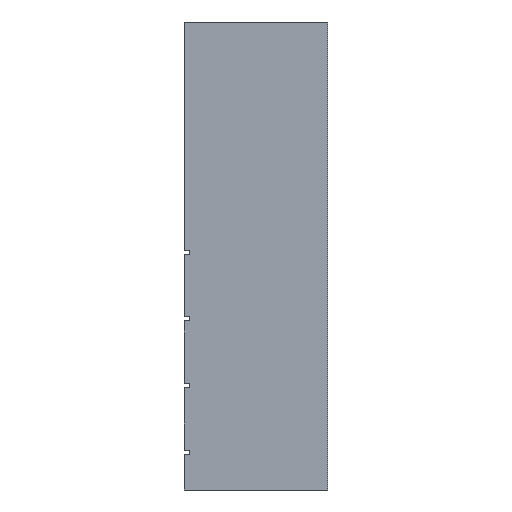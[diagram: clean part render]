
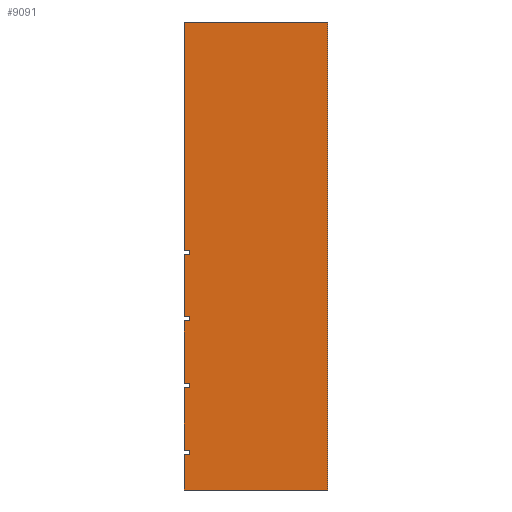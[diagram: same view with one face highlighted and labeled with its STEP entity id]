
A CAD part, left-side view. The second image highlights one B-rep face of the part: STEP entity #9091.
In plain terms, the highlighted planar face has unit normal (-1, 0, 0).
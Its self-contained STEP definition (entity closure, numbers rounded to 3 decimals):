
#375=PLANE('',#9787);
#715=FACE_OUTER_BOUND('',#1115,.T.);
#1115=EDGE_LOOP('',(#7291,#7292,#7293,#7294,#7295,#7296,#7297,#7298,#7299,
#7300,#7301,#7302,#7303,#7304,#7305,#7306,#7307,#7308,#7309,#7310));
#1546=LINE('',#13098,#2484);
#1548=LINE('',#13104,#2486);
#1551=LINE('',#13109,#2489);
#1619=LINE('',#13305,#2557);
#1621=LINE('',#13311,#2559);
#1624=LINE('',#13316,#2562);
#1854=LINE('',#13968,#2792);
#1856=LINE('',#13974,#2794);
#1859=LINE('',#13979,#2797);
#1927=LINE('',#14175,#2865);
#1929=LINE('',#14181,#2867);
#1932=LINE('',#14186,#2870);
#2025=LINE('',#14527,#2963);
#2026=LINE('',#14528,#2964);
#2027=LINE('',#14530,#2965);
#2028=LINE('',#14532,#2966);
#2029=LINE('',#14534,#2967);
#2030=LINE('',#14536,#2968);
#2031=LINE('',#14537,#2969);
#2032=LINE('',#14538,#2970);
#2484=VECTOR('',#10448,10.);
#2486=VECTOR('',#10452,10.);
#2489=VECTOR('',#10457,10.);
#2557=VECTOR('',#10627,10.);
#2559=VECTOR('',#10631,10.);
#2562=VECTOR('',#10636,10.);
#2792=VECTOR('',#11200,10.);
#2794=VECTOR('',#11204,10.);
#2797=VECTOR('',#11209,10.);
#2865=VECTOR('',#11379,10.);
#2867=VECTOR('',#11383,10.);
#2870=VECTOR('',#11388,10.);
#2963=VECTOR('',#11783,10.);
#2964=VECTOR('',#11784,10.);
#2965=VECTOR('',#11785,10.);
#2966=VECTOR('',#11786,10.);
#2967=VECTOR('',#11787,10.);
#2968=VECTOR('',#11788,10.);
#2969=VECTOR('',#11789,10.);
#2970=VECTOR('',#11790,10.);
#3866=VERTEX_POINT('',#13092);
#3868=VERTEX_POINT('',#13096);
#3869=VERTEX_POINT('',#13100);
#3871=VERTEX_POINT('',#13103);
#3947=VERTEX_POINT('',#13299);
#3949=VERTEX_POINT('',#13303);
#3950=VERTEX_POINT('',#13307);
#3952=VERTEX_POINT('',#13310);
#4206=VERTEX_POINT('',#13962);
#4208=VERTEX_POINT('',#13966);
#4209=VERTEX_POINT('',#13970);
#4211=VERTEX_POINT('',#13973);
#4287=VERTEX_POINT('',#14169);
#4289=VERTEX_POINT('',#14173);
#4290=VERTEX_POINT('',#14177);
#4292=VERTEX_POINT('',#14180);
#4391=VERTEX_POINT('',#14529);
#4392=VERTEX_POINT('',#14531);
#4393=VERTEX_POINT('',#14533);
#4394=VERTEX_POINT('',#14535);
#4826=EDGE_CURVE('',#3866,#3868,#1546,.T.);
#4828=EDGE_CURVE('',#3871,#3869,#1548,.T.);
#4831=EDGE_CURVE('',#3868,#3871,#1551,.T.);
#4925=EDGE_CURVE('',#3947,#3949,#1619,.T.);
#4927=EDGE_CURVE('',#3952,#3950,#1621,.T.);
#4930=EDGE_CURVE('',#3949,#3952,#1624,.T.);
#5242=EDGE_CURVE('',#4206,#4208,#1854,.T.);
#5244=EDGE_CURVE('',#4211,#4209,#1856,.T.);
#5247=EDGE_CURVE('',#4208,#4211,#1859,.T.);
#5341=EDGE_CURVE('',#4287,#4289,#1927,.T.);
#5343=EDGE_CURVE('',#4292,#4290,#1929,.T.);
#5346=EDGE_CURVE('',#4289,#4292,#1932,.T.);
#5539=EDGE_CURVE('',#3947,#3869,#2025,.T.);
#5540=EDGE_CURVE('',#4287,#3950,#2026,.T.);
#5541=EDGE_CURVE('',#4391,#4290,#2027,.T.);
#5542=EDGE_CURVE('',#4392,#4391,#2028,.T.);
#5543=EDGE_CURVE('',#4393,#4392,#2029,.T.);
#5544=EDGE_CURVE('',#4394,#4393,#2030,.T.);
#5545=EDGE_CURVE('',#4206,#4394,#2031,.T.);
#5546=EDGE_CURVE('',#3866,#4209,#2032,.T.);
#7291=ORIENTED_EDGE('',*,*,#4826,.T.);
#7292=ORIENTED_EDGE('',*,*,#4831,.T.);
#7293=ORIENTED_EDGE('',*,*,#4828,.T.);
#7294=ORIENTED_EDGE('',*,*,#5539,.F.);
#7295=ORIENTED_EDGE('',*,*,#4925,.T.);
#7296=ORIENTED_EDGE('',*,*,#4930,.T.);
#7297=ORIENTED_EDGE('',*,*,#4927,.T.);
#7298=ORIENTED_EDGE('',*,*,#5540,.F.);
#7299=ORIENTED_EDGE('',*,*,#5341,.T.);
#7300=ORIENTED_EDGE('',*,*,#5346,.T.);
#7301=ORIENTED_EDGE('',*,*,#5343,.T.);
#7302=ORIENTED_EDGE('',*,*,#5541,.F.);
#7303=ORIENTED_EDGE('',*,*,#5542,.F.);
#7304=ORIENTED_EDGE('',*,*,#5543,.F.);
#7305=ORIENTED_EDGE('',*,*,#5544,.F.);
#7306=ORIENTED_EDGE('',*,*,#5545,.F.);
#7307=ORIENTED_EDGE('',*,*,#5242,.T.);
#7308=ORIENTED_EDGE('',*,*,#5247,.T.);
#7309=ORIENTED_EDGE('',*,*,#5244,.T.);
#7310=ORIENTED_EDGE('',*,*,#5546,.F.);
#9091=ADVANCED_FACE('',(#715),#375,.F.);
#9787=AXIS2_PLACEMENT_3D('',#14526,#11781,#11782);
#10448=DIRECTION('',(0.,-1.,0.));
#10452=DIRECTION('',(0.,1.,0.));
#10457=DIRECTION('',(0.,0.,-1.));
#10627=DIRECTION('',(0.,-1.,0.));
#10631=DIRECTION('',(0.,1.,0.));
#10636=DIRECTION('',(0.,0.,-1.));
#11200=DIRECTION('',(0.,-1.,0.));
#11204=DIRECTION('',(0.,1.,0.));
#11209=DIRECTION('',(0.,0.,-1.));
#11379=DIRECTION('',(0.,-1.,0.));
#11383=DIRECTION('',(0.,1.,0.));
#11388=DIRECTION('',(0.,0.,-1.));
#11781=DIRECTION('center_axis',(1.,0.,0.));
#11782=DIRECTION('ref_axis',(0.,0.,-1.));
#11783=DIRECTION('',(0.,0.,1.));
#11784=DIRECTION('',(0.,0.,1.));
#11785=DIRECTION('',(0.,0.,1.));
#11786=DIRECTION('',(0.,1.,0.));
#11787=DIRECTION('',(0.,0.,-1.));
#11788=DIRECTION('',(0.,-1.,0.));
#11789=DIRECTION('',(0.,0.,1.));
#11790=DIRECTION('',(0.,0.,1.));
#13092=CARTESIAN_POINT('',(0.5,3.,-94.4));
#13096=CARTESIAN_POINT('',(0.5,1.5,-94.4));
#13098=CARTESIAN_POINT('',(0.5,1.5,-94.4));
#13100=CARTESIAN_POINT('',(0.5,3.,-95.6));
#13103=CARTESIAN_POINT('',(0.5,1.5,-95.6));
#13104=CARTESIAN_POINT('',(0.5,1.5,-95.6));
#13109=CARTESIAN_POINT('',(0.5,1.5,-122.5));
#13299=CARTESIAN_POINT('',(0.5,3.,-114.4));
#13303=CARTESIAN_POINT('',(0.5,1.5,-114.4));
#13305=CARTESIAN_POINT('',(0.5,1.5,-114.4));
#13307=CARTESIAN_POINT('',(0.5,3.,-115.6));
#13310=CARTESIAN_POINT('',(0.5,1.5,-115.6));
#13311=CARTESIAN_POINT('',(0.5,1.5,-115.6));
#13316=CARTESIAN_POINT('',(0.5,1.5,-132.5));
#13962=CARTESIAN_POINT('',(0.5,3.,-74.4));
#13966=CARTESIAN_POINT('',(0.5,1.5,-74.4));
#13968=CARTESIAN_POINT('',(0.5,1.5,-74.4));
#13970=CARTESIAN_POINT('',(0.5,3.,-75.6));
#13973=CARTESIAN_POINT('',(0.5,1.5,-75.6));
#13974=CARTESIAN_POINT('',(0.5,1.5,-75.6));
#13979=CARTESIAN_POINT('',(0.5,1.5,-112.5));
#14169=CARTESIAN_POINT('',(0.5,3.,-134.4));
#14173=CARTESIAN_POINT('',(0.5,1.5,-134.4));
#14175=CARTESIAN_POINT('',(0.5,1.5,-134.4));
#14177=CARTESIAN_POINT('',(0.5,3.,-135.6));
#14180=CARTESIAN_POINT('',(0.5,1.5,-135.6));
#14181=CARTESIAN_POINT('',(0.5,1.5,-135.6));
#14186=CARTESIAN_POINT('',(0.5,1.5,-142.5));
#14526=CARTESIAN_POINT('Origin',(0.5,0.,-150.));
#14527=CARTESIAN_POINT('',(0.5,3.,-112.5));
#14528=CARTESIAN_POINT('',(0.5,3.,-112.5));
#14529=CARTESIAN_POINT('',(0.5,3.,-146.3));
#14530=CARTESIAN_POINT('',(0.5,3.,-112.5));
#14531=CARTESIAN_POINT('',(0.5,-40.,-146.3));
#14532=CARTESIAN_POINT('',(0.5,1.5,-146.3));
#14533=CARTESIAN_POINT('',(0.5,-40.,-6.));
#14534=CARTESIAN_POINT('',(0.5,-40.,-113.075));
#14535=CARTESIAN_POINT('',(0.5,3.,-6.));
#14536=CARTESIAN_POINT('',(0.5,1.5,-6.));
#14537=CARTESIAN_POINT('',(0.5,3.,-112.5));
#14538=CARTESIAN_POINT('',(0.5,3.,-112.5));
